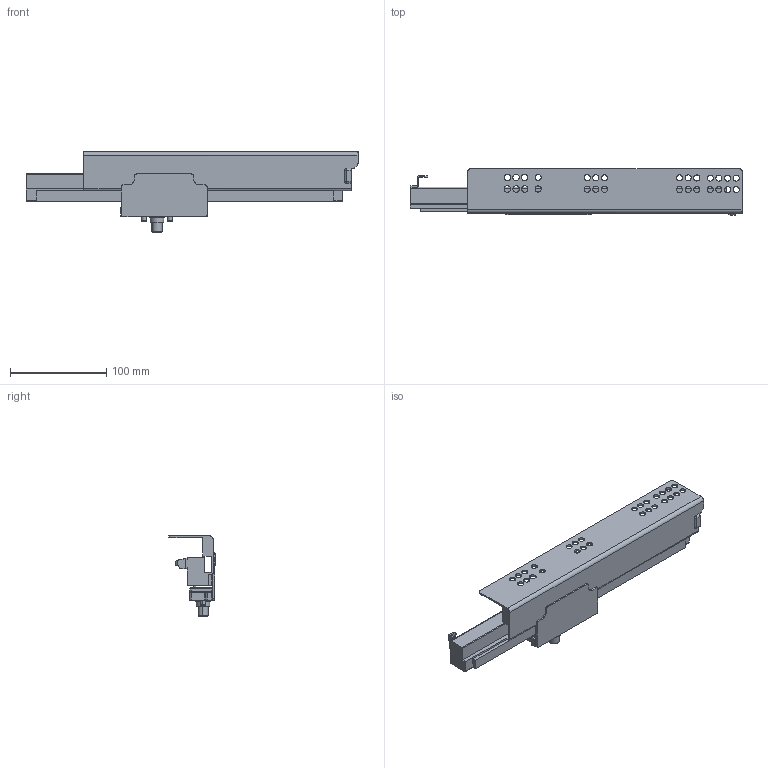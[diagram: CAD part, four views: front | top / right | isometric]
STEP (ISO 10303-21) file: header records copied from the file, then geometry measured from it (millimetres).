
FILE_DESCRIPTION (( 'STEP AP203' ), '1' );
FILE_NAME ('TF10350H-L-DTC3D-close.STEP', '2021-06-03T01:05:01', ( 'df' ), ( 'Microsoft' ), 'SwSTEP 2.0', 'SolidWorks 2018', '' );
FILE_SCHEMA (( 'CONFIG_CONTROL_DESIGN' ));
Length unit declared in the file: millimetre
Products named in the file (1): TF10350H-L-DTC3D-close
Bounding box: 345.27 x 48 x 83.3 mm (x, y, z)
Volume: 302827 mm3; surface area: 95926.5 mm2
Topology: 1 solids, 5 shells, 498 faces, 1281 edges, 793 vertices
Faces by surface type: cylinder 231, plane 163, bspline 104
Entity records: 18842 total; most frequent: CARTESIAN_POINT 7458, ORIENTED_EDGE 2544, DIRECTION 2095, EDGE_CURVE 1272, VERTEX_POINT 793, AXIS2_PLACEMENT_3D 733, VECTOR 629, LINE 629
